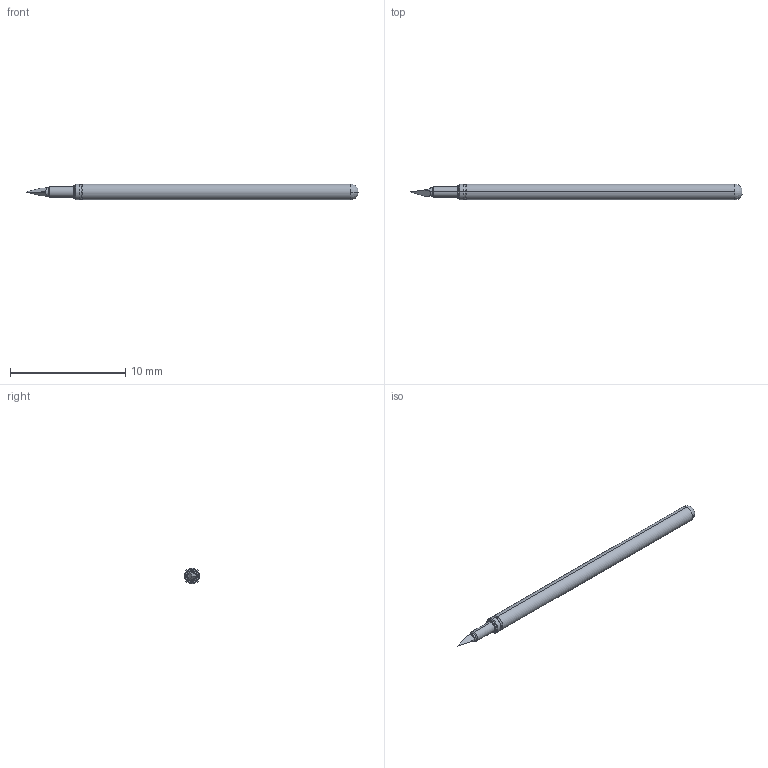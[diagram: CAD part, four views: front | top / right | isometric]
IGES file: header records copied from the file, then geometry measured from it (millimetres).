
Start section: SolidWorks IGES file using analytic representation for surfaces
Global section: file name: Z:\probe solid model mockups\Solidworks models\POGO-25 IGS files\POGO-25T1 RECD.IGS; native system: SolidWorks 2006 by SolidWorks Corporation; preprocessor: SolidWorks 2006 by SolidWorks Corporation; author: tsakatani; date: 071214.093324; units: inch
Bounding box: 28.78 x 1.37 x 1.37 mm (x, y, z)
Surface area: 116.2 mm2 (no closed solid volume)
Topology: 0 solids, 0 shells, 28 faces, 178 edges, 178 vertices
Faces by surface type: revolution 16, bspline 12
